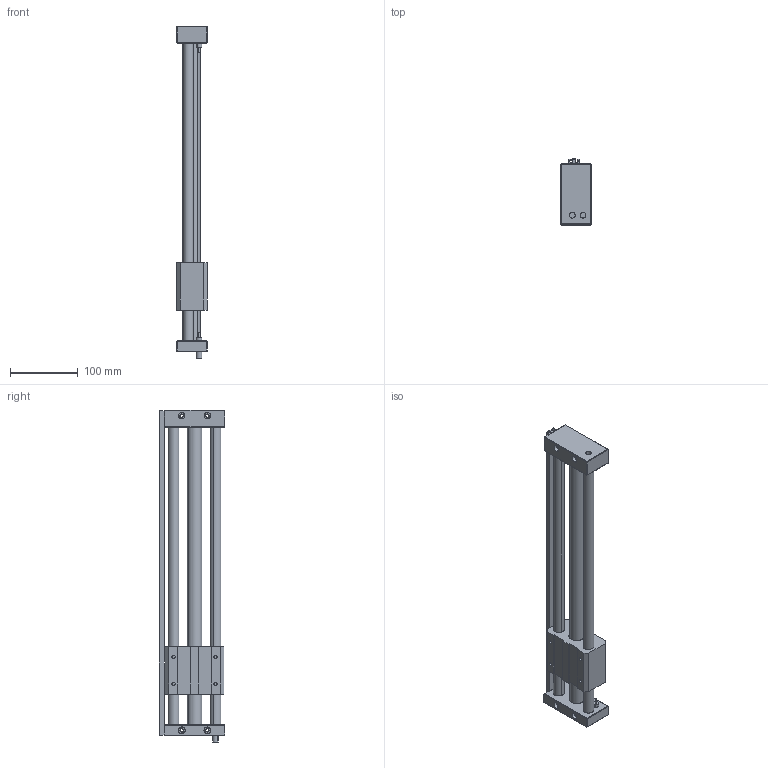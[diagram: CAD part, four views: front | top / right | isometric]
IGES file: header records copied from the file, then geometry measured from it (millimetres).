
Start section: SolidWorks IGES file using analytic representation for surfaces
Global section: file name: D:\Documents de SGA\Pieces 2D et 3D\GRU\iges\Assemblage5.1.IGS; native system: SolidWorks 2010; preprocessor: SolidWorks 2010; author: SGA; date: 111216.104330; units: millimetre
Bounding box: 45 x 97.49 x 491.22 mm (x, y, z)
Surface area: 181487 mm2 (no closed solid volume)
Topology: 0 solids, 0 shells, 211 faces, 3650 edges, 3650 vertices
Faces by surface type: bspline 111, revolution 100
